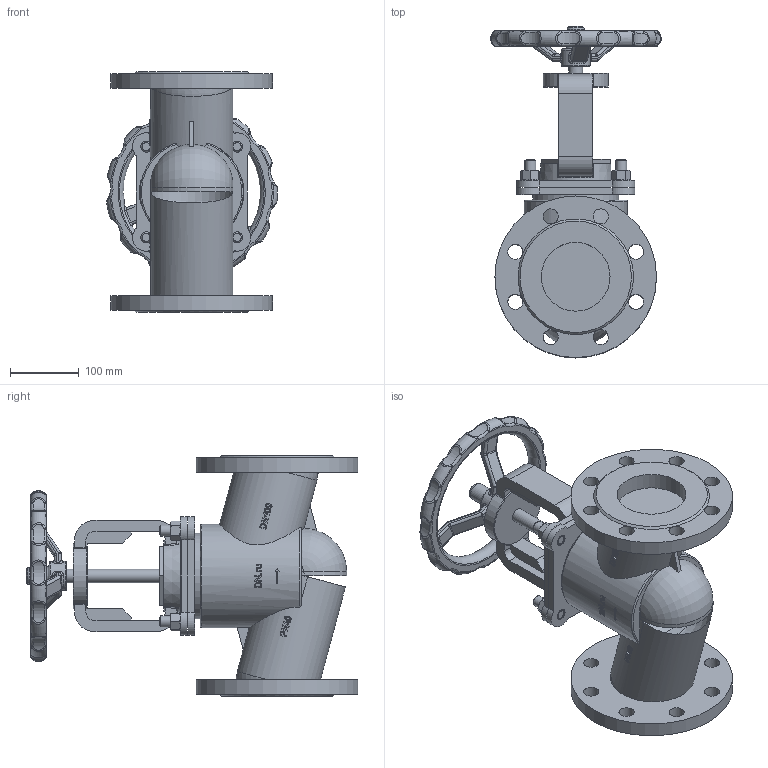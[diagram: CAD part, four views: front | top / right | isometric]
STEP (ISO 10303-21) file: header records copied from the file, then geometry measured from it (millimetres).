
FILE_DESCRIPTION(('STEP AP242'), '1');
FILE_NAME('VSO2130M-F-S 孰囡囗 玎镱痦 DN.ru 捏100 畜40', '2026-04-27T20:25:20', ('DN.ru'), (''), 'C3D Converter', 'C3D Toolkit', '');
FILE_SCHEMA(('AP242_MANAGED_MODEL_BASED_3D_ENGINEERING_MIM_LF { 1 0 10303 442 1 1 4 }'));
Length unit declared in the file: millimetre
Products named in the file (1): VSO2130M-F-S
Bounding box: 248.52 x 482.5 x 350 mm (x, y, z)
Volume: 7494255.8 mm3; surface area: 684769.9 mm2
Topology: 1 solids, 1 shells, 920 faces, 2339 edges, 1447 vertices
Faces by surface type: plane 266, extrusion 224, cylinder 164, torus 120, sphere 64, bspline 62, cone 20
Full cylindrical faces by diameter (mm): 16 x12, 20 x2, 22 x16, 25.35 x1, 42.25 x1, 50 x1, 100 x2, 120 x2, 125 x1, 150 x1, 235 x2
Entity records: 71864 total; most frequent: CARTESIAN_POINT 44170, ORIENTED_EDGE 4428, DIRECTION 3547, EDGE_CURVE 2214, VERTEX_POINT 1423, AXIS2_PLACEMENT_3D 1296, EDGE_LOOP 1089, FACE_BOUND 983
